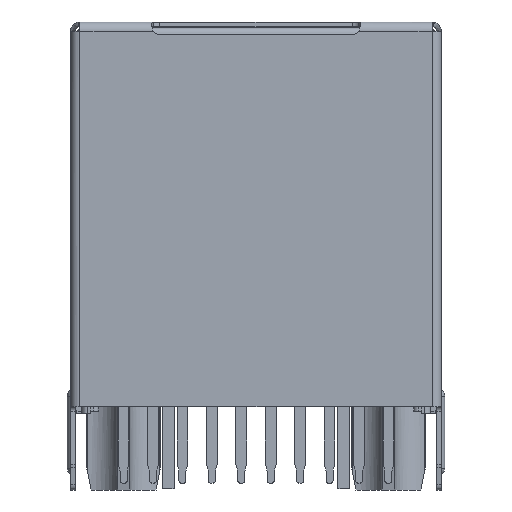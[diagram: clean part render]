
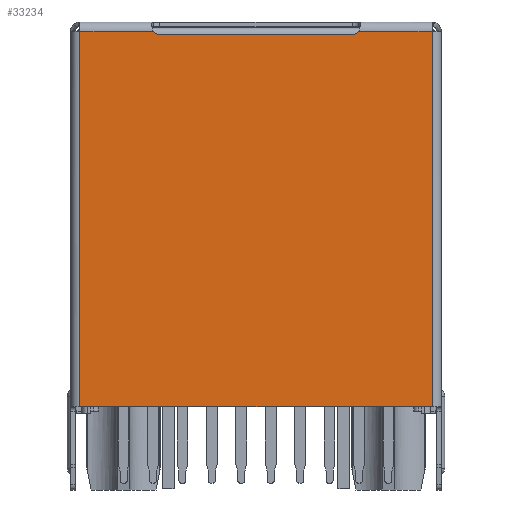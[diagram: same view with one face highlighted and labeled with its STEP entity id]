
A CAD part, front view. The second image highlights one B-rep face of the part: STEP entity #33234.
In plain terms, the highlighted planar face has unit normal (0, -1, 0).
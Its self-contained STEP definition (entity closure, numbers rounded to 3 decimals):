
#6832=DIRECTION('',(-1.,0.,0.));
#6833=VECTOR('',#6832,3.17);
#6834=CARTESIAN_POINT('',(-4.43,-16.82,-0.4));
#6835=LINE('',#6834,#6833);
#6850=CARTESIAN_POINT('',(-4.15,-16.82,-0.19));
#6851=DIRECTION('',(0.,-1.,0.));
#6852=DIRECTION('',(-0.8,0.,-0.6));
#6853=AXIS2_PLACEMENT_3D('',#6850,#6851,#6852);
#6855=CARTESIAN_POINT('',(4.15,-16.82,-0.19));
#6856=DIRECTION('',(0.,-1.,0.));
#6857=DIRECTION('',(0.,0.,-1.));
#6858=AXIS2_PLACEMENT_3D('',#6855,#6856,#6857);
#6860=DIRECTION('',(-1.,0.,0.));
#6861=VECTOR('',#6860,15.2);
#6862=CARTESIAN_POINT('',(7.6,-16.82,-16.6));
#6863=LINE('',#6862,#6861);
#6871=DIRECTION('',(0.,0.,-1.));
#6872=VECTOR('',#6871,16.2);
#6873=CARTESIAN_POINT('',(-7.6,-16.82,-0.4));
#6874=LINE('',#6873,#6872);
#7172=DIRECTION('',(0.,0.,1.));
#7173=VECTOR('',#7172,16.2);
#7174=CARTESIAN_POINT('',(7.6,-16.82,-16.6));
#7175=LINE('',#7174,#7173);
#7201=DIRECTION('',(-1.,0.,0.));
#7202=VECTOR('',#7201,3.17);
#7203=CARTESIAN_POINT('',(7.6,-16.82,-0.4));
#7204=LINE('',#7203,#7202);
#7560=DIRECTION('',(-1.,0.,0.));
#7561=VECTOR('',#7560,8.3);
#7562=CARTESIAN_POINT('',(4.15,-16.82,-0.54));
#7563=LINE('',#7562,#7561);
#20195=CARTESIAN_POINT('',(-4.43,-16.82,-0.4));
#20196=CARTESIAN_POINT('',(-7.6,-16.82,-0.4));
#20197=VERTEX_POINT('',#20195);
#20198=VERTEX_POINT('',#20196);
#20200=CARTESIAN_POINT('',(-7.6,-16.82,-16.6));
#20201=VERTEX_POINT('',#20200);
#20202=CARTESIAN_POINT('',(-4.15,-16.82,-0.54));
#20203=VERTEX_POINT('',#20202);
#20204=CARTESIAN_POINT('',(4.15,-16.82,-0.54));
#20205=VERTEX_POINT('',#20204);
#20206=CARTESIAN_POINT('',(4.43,-16.82,-0.4));
#20207=VERTEX_POINT('',#20206);
#20208=CARTESIAN_POINT('',(7.6,-16.82,-0.4));
#20209=VERTEX_POINT('',#20208);
#20210=CARTESIAN_POINT('',(7.6,-16.82,-16.6));
#20211=VERTEX_POINT('',#20210);
#33212=CARTESIAN_POINT('',(0.,-16.82,-8.5));
#33213=DIRECTION('',(0.,1.,0.));
#33214=DIRECTION('',(-1.,0.,0.));
#33215=AXIS2_PLACEMENT_3D('',#33212,#33213,#33214);
#33216=PLANE('',#33215);
#33218=ORIENTED_EDGE('',*,*,#33217,.F.);
#33219=ORIENTED_EDGE('',*,*,#33192,.F.);
#33221=ORIENTED_EDGE('',*,*,#33220,.T.);
#33223=ORIENTED_EDGE('',*,*,#33222,.F.);
#33225=ORIENTED_EDGE('',*,*,#33224,.T.);
#33227=ORIENTED_EDGE('',*,*,#33226,.F.);
#33229=ORIENTED_EDGE('',*,*,#33228,.F.);
#33231=ORIENTED_EDGE('',*,*,#33230,.T.);
#33232=EDGE_LOOP('',(#33218,#33219,#33221,#33223,#33225,#33227,#33229,#33231));
#33233=FACE_OUTER_BOUND('',#33232,.F.);
#33234=ADVANCED_FACE('',(#33233),#33216,.F.);
#6854=CIRCLE('',#6853,0.35);
#6859=CIRCLE('',#6858,0.35);
#33192=EDGE_CURVE('',#20197,#20198,#6835,.T.);
#33217=EDGE_CURVE('',#20198,#20201,#6874,.T.);
#33220=EDGE_CURVE('',#20197,#20203,#6854,.T.);
#33222=EDGE_CURVE('',#20205,#20203,#7563,.T.);
#33224=EDGE_CURVE('',#20205,#20207,#6859,.T.);
#33226=EDGE_CURVE('',#20209,#20207,#7204,.T.);
#33228=EDGE_CURVE('',#20211,#20209,#7175,.T.);
#33230=EDGE_CURVE('',#20211,#20201,#6863,.T.);
